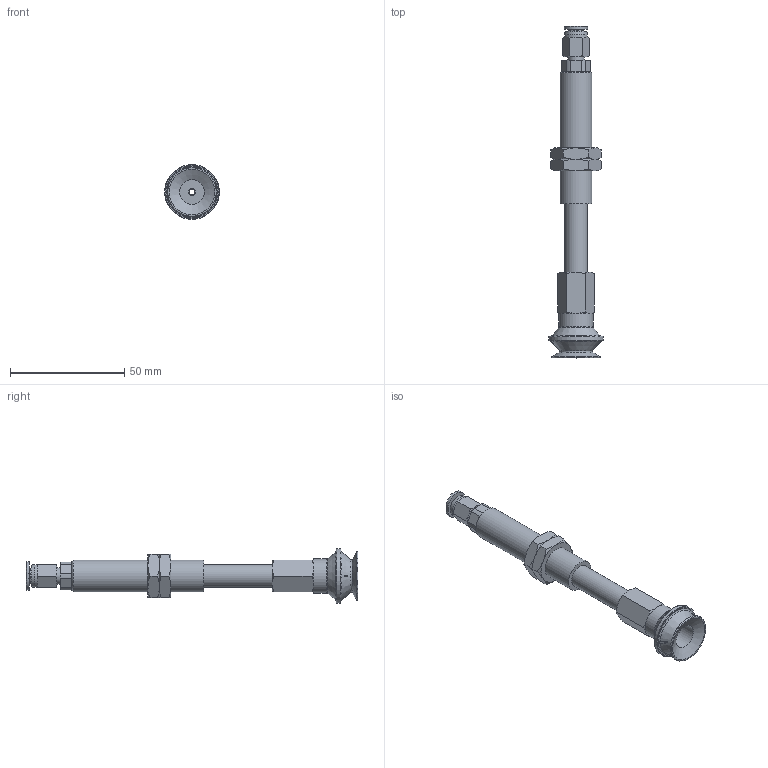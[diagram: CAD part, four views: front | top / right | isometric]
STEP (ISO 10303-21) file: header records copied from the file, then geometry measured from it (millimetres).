
FILE_DESCRIPTION(('STEP AP203'),'1');
FILE_NAME('-O.stp','2025-08-27T01:16:42',(' '),(' '),'Spatial InterOp 3D',' ',' ');
FILE_SCHEMA(('CONFIG_CONTROL_DESIGN'));
Length unit declared in the file: millimetre
Products named in the file (8): BNABPBTS-20-30-※-O; ADAPTER; NAPBTS-20-30--M; Adapter20-T-NAPB; Nut-20-S-PB; NAPBTS-20-30--F; BPBG-20-※; PC-C_06-M5
Assembly tree (8 placements, depth 2):
  BNABPBTS-20-30-※-O
    ADAPTER
    NAPBTS-20-30--M
    Adapter20-T-NAPB
    Nut-20-S-PB  x2
    NAPBTS-20-30--F
    BPBG-20-※
    PC-C_06-M5
Bounding box: 24 x 145.48 x 24 mm (x, y, z)
Volume: 19360.3 mm3; surface area: 15784.3 mm2
Topology: 7 solids, 10 shells, 190 faces, 404 edges, 246 vertices
Faces by surface type: plane 74, cone 67, cylinder 31, torus 11, bspline 4, revolution 3
Full cylindrical faces by diameter (mm): 2.5 x1, 3 x2, 4 x2, 4.134 x2, 4.6 x1, 5 x2, 7 x1, 7.4 x1, 8.2 x1, 10 x3, 10.8 x1, 11 x1, 12.917 x2, 14 x1, 15 x1, 24 x1
Entity records: 5038 total; most frequent: CARTESIAN_POINT 1365, DIRECTION 693, ORIENTED_EDGE 590, AXIS2_PLACEMENT_3D 303, EDGE_CURVE 297, EDGE_LOOP 242, VERTEX_POINT 207, FACE_OUTER_BOUND 138
